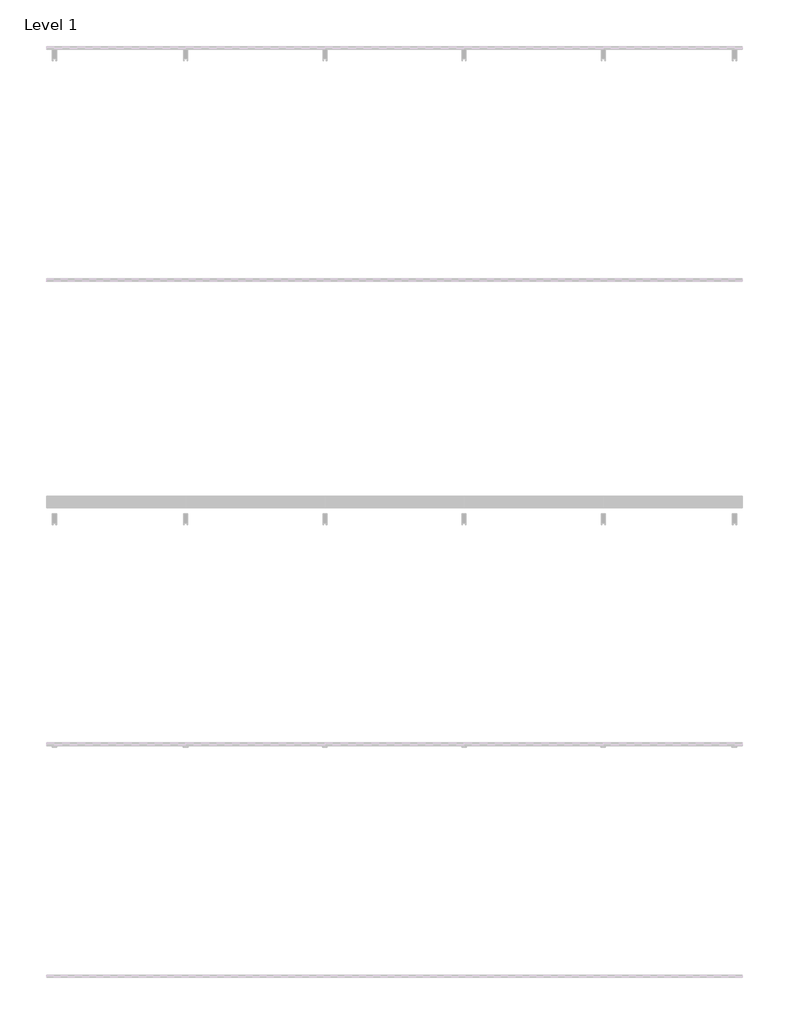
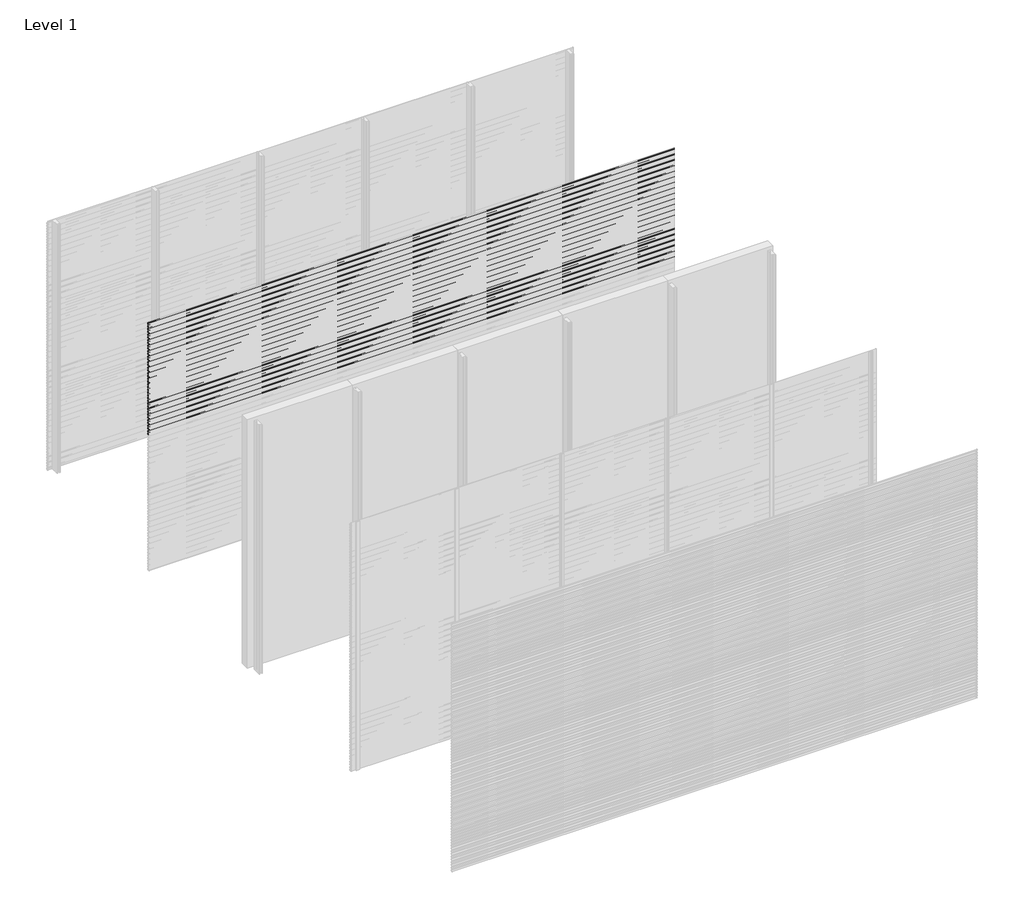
# One storey, part 48 of 77: 72 proxies.
"""IFC4 building model written with IfcOpenShell, lengths in millimetres."""

from ifc_helpers import new_model, si_unit, frame, origin, place, context, project, spatial, polyline, outline, extrude, element, save

model = new_model("IFC4")

# Units and contexts
model_context = context("Model", 3, world=origin())
ifc_project = project(units=[si_unit("LENGTHUNIT", "METRE", prefix="MILLI")], contexts=[model_context])

# Site, building, storey
site = spatial("IfcSite", under=ifc_project)
building = spatial("IfcBuilding", under=site)
storey = spatial("IfcBuildingStorey", under=building, Name="Level 1", Elevation=0.0)

# Proxies
placement = place(None, origin())
element("IfcBuildingElementProxy", 1, Name="Wall Sweeps", at=placement, inside=storey, context=model_context, shape_type="SweptSolid", body=[
    extrude(outline(polyline([(-19978.6, 2972.5359887), (-19998.0, 2983.7366691), (-19998.0, 2997.0), (-19997.0, 2997.0), (-19997.0, 2984.3191057), (-19977.6, 2973.1185105), (-19977.6, 2959.5185105), (-19978.6, 2961.0953129), (-19978.6, 2966.9032062), (-19995.9773817, 2958.8), (-19996.4, 2959.7063078), (-19978.6, 2968.0065841), (-19978.6, 2972.5359887)])), frame((0.0, 0.0, 0.0), z_axis=(1.0, 0.0, 0.0), x_axis=(0.0, 1.0, 0.0)), (0.0, 0.0, 1.0), 6000.0),
])
element("IfcBuildingElementProxy", 2, Name="Wall Sweeps", at=placement, inside=storey, context=model_context, shape_type="SweptSolid", body=[
    extrude(outline(polyline([(-19978.6, 2939.2359887), (-19998.0, 2950.4366691), (-19998.0, 2963.7), (-19997.0, 2963.7), (-19997.0, 2951.0191057), (-19977.6, 2939.8185105), (-19977.6, 2926.2185105), (-19978.6, 2927.7953129), (-19978.6, 2933.6032062), (-19995.9773817, 2925.5), (-19996.4, 2926.4063078), (-19978.6, 2934.7065841), (-19978.6, 2939.2359887)])), frame((0.0, 0.0, 0.0), z_axis=(1.0, 0.0, 0.0), x_axis=(0.0, 1.0, 0.0)), (0.0, 0.0, 1.0), 6000.0),
])
element("IfcBuildingElementProxy", 3, Name="Wall Sweeps", at=placement, inside=storey, context=model_context, shape_type="SweptSolid", body=[
    extrude(outline(polyline([(-19978.6, 2905.9359887), (-19998.0, 2917.1366691), (-19998.0, 2930.4), (-19997.0, 2930.4), (-19997.0, 2917.7191057), (-19977.6, 2906.5185105), (-19977.6, 2892.9185105), (-19978.6, 2894.4953129), (-19978.6, 2900.3032062), (-19995.9773817, 2892.2), (-19996.4, 2893.1063078), (-19978.6, 2901.4065841), (-19978.6, 2905.9359887)])), frame((0.0, 0.0, 0.0), z_axis=(1.0, 0.0, 0.0), x_axis=(0.0, 1.0, 0.0)), (0.0, 0.0, 1.0), 6000.0),
])
element("IfcBuildingElementProxy", 4, Name="Wall Sweeps", at=placement, inside=storey, context=model_context, shape_type="SweptSolid", body=[
    extrude(outline(polyline([(-19978.6, 2872.6359887), (-19998.0, 2883.8366691), (-19998.0, 2897.1), (-19997.0, 2897.1), (-19997.0, 2884.4191057), (-19977.6, 2873.2185105), (-19977.6, 2859.6185105), (-19978.6, 2861.1953129), (-19978.6, 2867.0032062), (-19995.9773817, 2858.9), (-19996.4, 2859.8063078), (-19978.6, 2868.1065841), (-19978.6, 2872.6359887)])), frame((0.0, 0.0, 0.0), z_axis=(1.0, 0.0, 0.0), x_axis=(0.0, 1.0, 0.0)), (0.0, 0.0, 1.0), 6000.0),
])
element("IfcBuildingElementProxy", 5, Name="Wall Sweeps", at=placement, inside=storey, context=model_context, shape_type="SweptSolid", body=[
    extrude(outline(polyline([(-19978.6, 2839.3359887), (-19998.0, 2850.5366691), (-19998.0, 2863.8), (-19997.0, 2863.8), (-19997.0, 2851.1191057), (-19977.6, 2839.9185105), (-19977.6, 2826.3185105), (-19978.6, 2827.8953129), (-19978.6, 2833.7032062), (-19995.9773817, 2825.6), (-19996.4, 2826.5063078), (-19978.6, 2834.8065841), (-19978.6, 2839.3359887)])), frame((0.0, 0.0, 0.0), z_axis=(1.0, 0.0, 0.0), x_axis=(0.0, 1.0, 0.0)), (0.0, 0.0, 1.0), 6000.0),
])
element("IfcBuildingElementProxy", 6, Name="Wall Sweeps", at=placement, inside=storey, context=model_context, shape_type="SweptSolid", body=[
    extrude(outline(polyline([(-19978.6, 2806.0359887), (-19998.0, 2817.2366691), (-19998.0, 2830.5), (-19997.0, 2830.5), (-19997.0, 2817.8191057), (-19977.6, 2806.6185105), (-19977.6, 2793.0185105), (-19978.6, 2794.5953129), (-19978.6, 2800.4032062), (-19995.9773817, 2792.3), (-19996.4, 2793.2063078), (-19978.6, 2801.5065841), (-19978.6, 2806.0359887)])), frame((0.0, 0.0, 0.0), z_axis=(1.0, 0.0, 0.0), x_axis=(0.0, 1.0, 0.0)), (0.0, 0.0, 1.0), 6000.0),
])
element("IfcBuildingElementProxy", 7, Name="Wall Sweeps", at=placement, inside=storey, context=model_context, shape_type="SweptSolid", body=[
    extrude(outline(polyline([(-19978.6, 2772.7359887), (-19998.0, 2783.9366691), (-19998.0, 2797.2), (-19997.0, 2797.2), (-19997.0, 2784.5191057), (-19977.6, 2773.3185105), (-19977.6, 2759.7185105), (-19978.6, 2761.2953129), (-19978.6, 2767.1032062), (-19995.9773817, 2759.0), (-19996.4, 2759.9063078), (-19978.6, 2768.2065841), (-19978.6, 2772.7359887)])), frame((0.0, 0.0, 0.0), z_axis=(1.0, 0.0, 0.0), x_axis=(0.0, 1.0, 0.0)), (0.0, 0.0, 1.0), 6000.0),
])
element("IfcBuildingElementProxy", 8, Name="Wall Sweeps", at=placement, inside=storey, context=model_context, shape_type="SweptSolid", body=[
    extrude(outline(polyline([(-19978.6, 2739.4359887), (-19998.0, 2750.6366691), (-19998.0, 2763.9), (-19997.0, 2763.9), (-19997.0, 2751.2191057), (-19977.6, 2740.0185105), (-19977.6, 2726.4185105), (-19978.6, 2727.9953129), (-19978.6, 2733.8032062), (-19995.9773817, 2725.7), (-19996.4, 2726.6063078), (-19978.6, 2734.9065841), (-19978.6, 2739.4359887)])), frame((0.0, 0.0, 0.0), z_axis=(1.0, 0.0, 0.0), x_axis=(0.0, 1.0, 0.0)), (0.0, 0.0, 1.0), 6000.0),
])
element("IfcBuildingElementProxy", 9, Name="Wall Sweeps", at=placement, inside=storey, context=model_context, shape_type="SweptSolid", body=[
    extrude(outline(polyline([(-19978.6, 2706.1359887), (-19998.0, 2717.3366691), (-19998.0, 2730.6), (-19997.0, 2730.6), (-19997.0, 2717.9191057), (-19977.6, 2706.7185105), (-19977.6, 2693.1185105), (-19978.6, 2694.6953129), (-19978.6, 2700.5032062), (-19995.9773817, 2692.4), (-19996.4, 2693.3063078), (-19978.6, 2701.6065841), (-19978.6, 2706.1359887)])), frame((0.0, 0.0, 0.0), z_axis=(1.0, 0.0, 0.0), x_axis=(0.0, 1.0, 0.0)), (0.0, 0.0, 1.0), 6000.0),
])
element("IfcBuildingElementProxy", 10, Name="Wall Sweeps", at=placement, inside=storey, context=model_context, shape_type="SweptSolid", body=[
    extrude(outline(polyline([(-19978.6, 2672.8359887), (-19998.0, 2684.0366691), (-19998.0, 2697.3), (-19997.0, 2697.3), (-19997.0, 2684.6191057), (-19977.6, 2673.4185105), (-19977.6, 2659.8185105), (-19978.6, 2661.3953129), (-19978.6, 2667.2032062), (-19995.9773817, 2659.1), (-19996.4, 2660.0063078), (-19978.6, 2668.3065841), (-19978.6, 2672.8359887)])), frame((0.0, 0.0, 0.0), z_axis=(1.0, 0.0, 0.0), x_axis=(0.0, 1.0, 0.0)), (0.0, 0.0, 1.0), 6000.0),
])
element("IfcBuildingElementProxy", 11, Name="Wall Sweeps", at=placement, inside=storey, context=model_context, shape_type="SweptSolid", body=[
    extrude(outline(polyline([(-19978.6, 2639.5359887), (-19998.0, 2650.7366691), (-19998.0, 2664.0), (-19997.0, 2664.0), (-19997.0, 2651.3191057), (-19977.6, 2640.1185105), (-19977.6, 2626.5185105), (-19978.6, 2628.0953129), (-19978.6, 2633.9032062), (-19995.9773817, 2625.8), (-19996.4, 2626.7063078), (-19978.6, 2635.0065841), (-19978.6, 2639.5359887)])), frame((0.0, 0.0, 0.0), z_axis=(1.0, 0.0, 0.0), x_axis=(0.0, 1.0, 0.0)), (0.0, 0.0, 1.0), 6000.0),
])
element("IfcBuildingElementProxy", 12, Name="Wall Sweeps", at=placement, inside=storey, context=model_context, shape_type="SweptSolid", body=[
    extrude(outline(polyline([(-19978.6, 2606.2359887), (-19998.0, 2617.4366691), (-19998.0, 2630.7), (-19997.0, 2630.7), (-19997.0, 2618.0191057), (-19977.6, 2606.8185105), (-19977.6, 2593.2185105), (-19978.6, 2594.7953129), (-19978.6, 2600.6032062), (-19995.9773817, 2592.5), (-19996.4, 2593.4063078), (-19978.6, 2601.7065841), (-19978.6, 2606.2359887)])), frame((0.0, 0.0, 0.0), z_axis=(1.0, 0.0, 0.0), x_axis=(0.0, 1.0, 0.0)), (0.0, 0.0, 1.0), 6000.0),
])
element("IfcBuildingElementProxy", 13, Name="Wall Sweeps", at=placement, inside=storey, context=model_context, shape_type="SweptSolid", body=[
    extrude(outline(polyline([(-19978.6, 2572.9359887), (-19998.0, 2584.1366691), (-19998.0, 2597.4), (-19997.0, 2597.4), (-19997.0, 2584.7191057), (-19977.6, 2573.5185105), (-19977.6, 2559.9185105), (-19978.6, 2561.4953129), (-19978.6, 2567.3032062), (-19995.9773817, 2559.2), (-19996.4, 2560.1063078), (-19978.6, 2568.4065841), (-19978.6, 2572.9359887)])), frame((0.0, 0.0, 0.0), z_axis=(1.0, 0.0, 0.0), x_axis=(0.0, 1.0, 0.0)), (0.0, 0.0, 1.0), 6000.0),
])
element("IfcBuildingElementProxy", 14, Name="Wall Sweeps", at=placement, inside=storey, context=model_context, shape_type="SweptSolid", body=[
    extrude(outline(polyline([(-19978.6, 2539.6359887), (-19998.0, 2550.8366691), (-19998.0, 2564.1), (-19997.0, 2564.1), (-19997.0, 2551.4191057), (-19977.6, 2540.2185105), (-19977.6, 2526.6185105), (-19978.6, 2528.1953129), (-19978.6, 2534.0032062), (-19995.9773817, 2525.9), (-19996.4, 2526.8063078), (-19978.6, 2535.1065841), (-19978.6, 2539.6359887)])), frame((0.0, 0.0, 0.0), z_axis=(1.0, 0.0, 0.0), x_axis=(0.0, 1.0, 0.0)), (0.0, 0.0, 1.0), 6000.0),
])
element("IfcBuildingElementProxy", 15, Name="Wall Sweeps", at=placement, inside=storey, context=model_context, shape_type="SweptSolid", body=[
    extrude(outline(polyline([(-19978.6, 2506.3359887), (-19998.0, 2517.5366691), (-19998.0, 2530.8), (-19997.0, 2530.8), (-19997.0, 2518.1191057), (-19977.6, 2506.9185105), (-19977.6, 2493.3185105), (-19978.6, 2494.8953129), (-19978.6, 2500.7032062), (-19995.9773817, 2492.6), (-19996.4, 2493.5063078), (-19978.6, 2501.8065841), (-19978.6, 2506.3359887)])), frame((0.0, 0.0, 0.0), z_axis=(1.0, 0.0, 0.0), x_axis=(0.0, 1.0, 0.0)), (0.0, 0.0, 1.0), 6000.0),
])
element("IfcBuildingElementProxy", 16, Name="Wall Sweeps", at=placement, inside=storey, context=model_context, shape_type="SweptSolid", body=[
    extrude(outline(polyline([(-19978.6, 2473.0359887), (-19998.0, 2484.2366691), (-19998.0, 2497.5), (-19997.0, 2497.5), (-19997.0, 2484.8191057), (-19977.6, 2473.6185105), (-19977.6, 2460.0185105), (-19978.6, 2461.5953129), (-19978.6, 2467.4032062), (-19995.9773817, 2459.3), (-19996.4, 2460.2063078), (-19978.6, 2468.5065841), (-19978.6, 2473.0359887)])), frame((0.0, 0.0, 0.0), z_axis=(1.0, 0.0, 0.0), x_axis=(0.0, 1.0, 0.0)), (0.0, 0.0, 1.0), 6000.0),
])
element("IfcBuildingElementProxy", 17, Name="Wall Sweeps", at=placement, inside=storey, context=model_context, shape_type="SweptSolid", body=[
    extrude(outline(polyline([(-19978.6, 2439.7359887), (-19998.0, 2450.9366691), (-19998.0, 2464.2), (-19997.0, 2464.2), (-19997.0, 2451.5191057), (-19977.6, 2440.3185105), (-19977.6, 2426.7185105), (-19978.6, 2428.2953129), (-19978.6, 2434.1032062), (-19995.9773817, 2426.0), (-19996.4, 2426.9063078), (-19978.6, 2435.2065841), (-19978.6, 2439.7359887)])), frame((0.0, 0.0, 0.0), z_axis=(1.0, 0.0, 0.0), x_axis=(0.0, 1.0, 0.0)), (0.0, 0.0, 1.0), 6000.0),
])
element("IfcBuildingElementProxy", 18, Name="Wall Sweeps", at=placement, inside=storey, context=model_context, shape_type="SweptSolid", body=[
    extrude(outline(polyline([(-19978.6, 2406.4359887), (-19998.0, 2417.6366691), (-19998.0, 2430.9), (-19997.0, 2430.9), (-19997.0, 2418.2191057), (-19977.6, 2407.0185105), (-19977.6, 2393.4185105), (-19978.6, 2394.9953129), (-19978.6, 2400.8032062), (-19995.9773817, 2392.7), (-19996.4, 2393.6063078), (-19978.6, 2401.9065841), (-19978.6, 2406.4359887)])), frame((0.0, 0.0, 0.0), z_axis=(1.0, 0.0, 0.0), x_axis=(0.0, 1.0, 0.0)), (0.0, 0.0, 1.0), 6000.0),
])
element("IfcBuildingElementProxy", 19, Name="Wall Sweeps", at=placement, inside=storey, context=model_context, shape_type="SweptSolid", body=[
    extrude(outline(polyline([(-19978.6, 2373.1359887), (-19998.0, 2384.3366691), (-19998.0, 2397.6), (-19997.0, 2397.6), (-19997.0, 2384.9191057), (-19977.6, 2373.7185105), (-19977.6, 2360.1185105), (-19978.6, 2361.6953129), (-19978.6, 2367.5032062), (-19995.9773817, 2359.4), (-19996.4, 2360.3063078), (-19978.6, 2368.6065841), (-19978.6, 2373.1359887)])), frame((0.0, 0.0, 0.0), z_axis=(1.0, 0.0, 0.0), x_axis=(0.0, 1.0, 0.0)), (0.0, 0.0, 1.0), 6000.0),
])
element("IfcBuildingElementProxy", 20, Name="Wall Sweeps", at=placement, inside=storey, context=model_context, shape_type="SweptSolid", body=[
    extrude(outline(polyline([(-19978.6, 2339.8359887), (-19998.0, 2351.0366691), (-19998.0, 2364.3), (-19997.0, 2364.3), (-19997.0, 2351.6191057), (-19977.6, 2340.4185105), (-19977.6, 2326.8185105), (-19978.6, 2328.3953129), (-19978.6, 2334.2032062), (-19995.9773817, 2326.1), (-19996.4, 2327.0063078), (-19978.6, 2335.3065841), (-19978.6, 2339.8359887)])), frame((0.0, 0.0, 0.0), z_axis=(1.0, 0.0, 0.0), x_axis=(0.0, 1.0, 0.0)), (0.0, 0.0, 1.0), 6000.0),
])
element("IfcBuildingElementProxy", 21, Name="Wall Sweeps", at=placement, inside=storey, context=model_context, shape_type="SweptSolid", body=[
    extrude(outline(polyline([(-19978.6, 2306.5359887), (-19998.0, 2317.7366691), (-19998.0, 2331.0), (-19997.0, 2331.0), (-19997.0, 2318.3191057), (-19977.6, 2307.1185105), (-19977.6, 2293.5185105), (-19978.6, 2295.0953129), (-19978.6, 2300.9032062), (-19995.9773817, 2292.8), (-19996.4, 2293.7063078), (-19978.6, 2302.0065841), (-19978.6, 2306.5359887)])), frame((0.0, 0.0, 0.0), z_axis=(1.0, 0.0, 0.0), x_axis=(0.0, 1.0, 0.0)), (0.0, 0.0, 1.0), 6000.0),
])
element("IfcBuildingElementProxy", 22, Name="Wall Sweeps", at=placement, inside=storey, context=model_context, shape_type="SweptSolid", body=[
    extrude(outline(polyline([(-19978.6, 2273.2359887), (-19998.0, 2284.4366691), (-19998.0, 2297.7), (-19997.0, 2297.7), (-19997.0, 2285.0191057), (-19977.6, 2273.8185105), (-19977.6, 2260.2185105), (-19978.6, 2261.7953129), (-19978.6, 2267.6032062), (-19995.9773817, 2259.5), (-19996.4, 2260.4063078), (-19978.6, 2268.7065841), (-19978.6, 2273.2359887)])), frame((0.0, 0.0, 0.0), z_axis=(1.0, 0.0, 0.0), x_axis=(0.0, 1.0, 0.0)), (0.0, 0.0, 1.0), 6000.0),
])
element("IfcBuildingElementProxy", 23, Name="Wall Sweeps", at=placement, inside=storey, context=model_context, shape_type="SweptSolid", body=[
    extrude(outline(polyline([(-19978.6, 2239.9359887), (-19998.0, 2251.1366691), (-19998.0, 2264.4), (-19997.0, 2264.4), (-19997.0, 2251.7191057), (-19977.6, 2240.5185105), (-19977.6, 2226.9185105), (-19978.6, 2228.4953129), (-19978.6, 2234.3032062), (-19995.9773817, 2226.2), (-19996.4, 2227.1063078), (-19978.6, 2235.4065841), (-19978.6, 2239.9359887)])), frame((0.0, 0.0, 0.0), z_axis=(1.0, 0.0, 0.0), x_axis=(0.0, 1.0, 0.0)), (0.0, 0.0, 1.0), 6000.0),
])
element("IfcBuildingElementProxy", 24, Name="Wall Sweeps", at=placement, inside=storey, context=model_context, shape_type="SweptSolid", body=[
    extrude(outline(polyline([(-19978.6, 2206.6359887), (-19998.0, 2217.8366691), (-19998.0, 2231.1), (-19997.0, 2231.1), (-19997.0, 2218.4191057), (-19977.6, 2207.2185105), (-19977.6, 2193.6185105), (-19978.6, 2195.1953129), (-19978.6, 2201.0032062), (-19995.9773817, 2192.9), (-19996.4, 2193.8063078), (-19978.6, 2202.1065841), (-19978.6, 2206.6359887)])), frame((0.0, 0.0, 0.0), z_axis=(1.0, 0.0, 0.0), x_axis=(0.0, 1.0, 0.0)), (0.0, 0.0, 1.0), 6000.0),
])
element("IfcBuildingElementProxy", 25, Name="Wall Sweeps", at=placement, inside=storey, context=model_context, shape_type="SweptSolid", body=[
    extrude(outline(polyline([(-19978.6, 2173.3359887), (-19998.0, 2184.5366691), (-19998.0, 2197.8), (-19997.0, 2197.8), (-19997.0, 2185.1191057), (-19977.6, 2173.9185105), (-19977.6, 2160.3185105), (-19978.6, 2161.8953129), (-19978.6, 2167.7032062), (-19995.9773817, 2159.6), (-19996.4, 2160.5063078), (-19978.6, 2168.8065841), (-19978.6, 2173.3359887)])), frame((0.0, 0.0, 0.0), z_axis=(1.0, 0.0, 0.0), x_axis=(0.0, 1.0, 0.0)), (0.0, 0.0, 1.0), 6000.0),
])
element("IfcBuildingElementProxy", 26, Name="Wall Sweeps", at=placement, inside=storey, context=model_context, shape_type="SweptSolid", body=[
    extrude(outline(polyline([(-19978.6, 2140.0359887), (-19998.0, 2151.2366691), (-19998.0, 2164.5), (-19997.0, 2164.5), (-19997.0, 2151.8191057), (-19977.6, 2140.6185105), (-19977.6, 2127.0185105), (-19978.6, 2128.5953129), (-19978.6, 2134.4032062), (-19995.9773817, 2126.3), (-19996.4, 2127.2063078), (-19978.6, 2135.5065841), (-19978.6, 2140.0359887)])), frame((0.0, 0.0, 0.0), z_axis=(1.0, 0.0, 0.0), x_axis=(0.0, 1.0, 0.0)), (0.0, 0.0, 1.0), 6000.0),
])
element("IfcBuildingElementProxy", 27, Name="Wall Sweeps", at=placement, inside=storey, context=model_context, shape_type="SweptSolid", body=[
    extrude(outline(polyline([(-19978.6, 2106.7359887), (-19998.0, 2117.9366691), (-19998.0, 2131.2), (-19997.0, 2131.2), (-19997.0, 2118.5191057), (-19977.6, 2107.3185105), (-19977.6, 2093.7185105), (-19978.6, 2095.2953129), (-19978.6, 2101.1032062), (-19995.9773817, 2093.0), (-19996.4, 2093.9063078), (-19978.6, 2102.2065841), (-19978.6, 2106.7359887)])), frame((0.0, 0.0, 0.0), z_axis=(1.0, 0.0, 0.0), x_axis=(0.0, 1.0, 0.0)), (0.0, 0.0, 1.0), 6000.0),
])
element("IfcBuildingElementProxy", 28, Name="Wall Sweeps", at=placement, inside=storey, context=model_context, shape_type="SweptSolid", body=[
    extrude(outline(polyline([(-19978.6, 2073.4359887), (-19998.0, 2084.6366691), (-19998.0, 2097.9), (-19997.0, 2097.9), (-19997.0, 2085.2191057), (-19977.6, 2074.0185105), (-19977.6, 2060.4185105), (-19978.6, 2061.9953129), (-19978.6, 2067.8032062), (-19995.9773817, 2059.7), (-19996.4, 2060.6063078), (-19978.6, 2068.9065841), (-19978.6, 2073.4359887)])), frame((0.0, 0.0, 0.0), z_axis=(1.0, 0.0, 0.0), x_axis=(0.0, 1.0, 0.0)), (0.0, 0.0, 1.0), 6000.0),
])
element("IfcBuildingElementProxy", 29, Name="Wall Sweeps", at=placement, inside=storey, context=model_context, shape_type="SweptSolid", body=[
    extrude(outline(polyline([(-19978.6, 2040.1359887), (-19998.0, 2051.3366691), (-19998.0, 2064.6), (-19997.0, 2064.6), (-19997.0, 2051.9191057), (-19977.6, 2040.7185105), (-19977.6, 2027.1185105), (-19978.6, 2028.6953129), (-19978.6, 2034.5032062), (-19995.9773817, 2026.4), (-19996.4, 2027.3063078), (-19978.6, 2035.6065841), (-19978.6, 2040.1359887)])), frame((0.0, 0.0, 0.0), z_axis=(1.0, 0.0, 0.0), x_axis=(0.0, 1.0, 0.0)), (0.0, 0.0, 1.0), 6000.0),
])
element("IfcBuildingElementProxy", 30, Name="Wall Sweeps", at=placement, inside=storey, context=model_context, shape_type="SweptSolid", body=[
    extrude(outline(polyline([(-19978.6, 2006.8359887), (-19998.0, 2018.0366691), (-19998.0, 2031.3), (-19997.0, 2031.3), (-19997.0, 2018.6191057), (-19977.6, 2007.4185105), (-19977.6, 1993.8185105), (-19978.6, 1995.3953129), (-19978.6, 2001.2032062), (-19995.9773817, 1993.1), (-19996.4, 1994.0063078), (-19978.6, 2002.3065841), (-19978.6, 2006.8359887)])), frame((0.0, 0.0, 0.0), z_axis=(1.0, 0.0, 0.0), x_axis=(0.0, 1.0, 0.0)), (0.0, 0.0, 1.0), 6000.0),
])
element("IfcBuildingElementProxy", 31, Name="Wall Sweeps", at=placement, inside=storey, context=model_context, shape_type="SweptSolid", body=[
    extrude(outline(polyline([(-19978.6, 1973.5359887), (-19998.0, 1984.7366691), (-19998.0, 1998.0), (-19997.0, 1998.0), (-19997.0, 1985.3191057), (-19977.6, 1974.1185105), (-19977.6, 1960.5185105), (-19978.6, 1962.0953129), (-19978.6, 1967.9032062), (-19995.9773817, 1959.8), (-19996.4, 1960.7063078), (-19978.6, 1969.0065841), (-19978.6, 1973.5359887)])), frame((0.0, 0.0, 0.0), z_axis=(1.0, 0.0, 0.0), x_axis=(0.0, 1.0, 0.0)), (0.0, 0.0, 1.0), 6000.0),
])
element("IfcBuildingElementProxy", 32, Name="Wall Sweeps", at=placement, inside=storey, context=model_context, shape_type="SweptSolid", body=[
    extrude(outline(polyline([(-19978.6, 1940.2359887), (-19998.0, 1951.4366691), (-19998.0, 1964.7), (-19997.0, 1964.7), (-19997.0, 1952.0191057), (-19977.6, 1940.8185105), (-19977.6, 1927.2185105), (-19978.6, 1928.7953129), (-19978.6, 1934.6032062), (-19995.9773817, 1926.5), (-19996.4, 1927.4063078), (-19978.6, 1935.7065841), (-19978.6, 1940.2359887)])), frame((0.0, 0.0, 0.0), z_axis=(1.0, 0.0, 0.0), x_axis=(0.0, 1.0, 0.0)), (0.0, 0.0, 1.0), 6000.0),
])
element("IfcBuildingElementProxy", 33, Name="Wall Sweeps", at=placement, inside=storey, context=model_context, shape_type="SweptSolid", body=[
    extrude(outline(polyline([(-19978.6, 1906.9359887), (-19998.0, 1918.1366691), (-19998.0, 1931.4), (-19997.0, 1931.4), (-19997.0, 1918.7191057), (-19977.6, 1907.5185105), (-19977.6, 1893.9185105), (-19978.6, 1895.4953129), (-19978.6, 1901.3032062), (-19995.9773817, 1893.2), (-19996.4, 1894.1063078), (-19978.6, 1902.4065841), (-19978.6, 1906.9359887)])), frame((0.0, 0.0, 0.0), z_axis=(1.0, 0.0, 0.0), x_axis=(0.0, 1.0, 0.0)), (0.0, 0.0, 1.0), 6000.0),
])
element("IfcBuildingElementProxy", 34, Name="Wall Sweeps", at=placement, inside=storey, context=model_context, shape_type="SweptSolid", body=[
    extrude(outline(polyline([(-19978.6, 1873.6359887), (-19998.0, 1884.8366691), (-19998.0, 1898.1), (-19997.0, 1898.1), (-19997.0, 1885.4191057), (-19977.6, 1874.2185105), (-19977.6, 1860.6185105), (-19978.6, 1862.1953129), (-19978.6, 1868.0032062), (-19995.9773817, 1859.9), (-19996.4, 1860.8063078), (-19978.6, 1869.1065841), (-19978.6, 1873.6359887)])), frame((0.0, 0.0, 0.0), z_axis=(1.0, 0.0, 0.0), x_axis=(0.0, 1.0, 0.0)), (0.0, 0.0, 1.0), 6000.0),
])
element("IfcBuildingElementProxy", 35, Name="Wall Sweeps", at=placement, inside=storey, context=model_context, shape_type="SweptSolid", body=[
    extrude(outline(polyline([(-19978.6, 1840.3359887), (-19998.0, 1851.5366691), (-19998.0, 1864.8), (-19997.0, 1864.8), (-19997.0, 1852.1191057), (-19977.6, 1840.9185105), (-19977.6, 1827.3185105), (-19978.6, 1828.8953129), (-19978.6, 1834.7032062), (-19995.9773817, 1826.6), (-19996.4, 1827.5063078), (-19978.6, 1835.8065841), (-19978.6, 1840.3359887)])), frame((0.0, 0.0, 0.0), z_axis=(1.0, 0.0, 0.0), x_axis=(0.0, 1.0, 0.0)), (0.0, 0.0, 1.0), 6000.0),
])
element("IfcBuildingElementProxy", 36, Name="Wall Sweeps", at=placement, inside=storey, context=model_context, shape_type="SweptSolid", body=[
    extrude(outline(polyline([(-19978.6, 1807.0359887), (-19998.0, 1818.2366691), (-19998.0, 1831.5), (-19997.0, 1831.5), (-19997.0, 1818.8191057), (-19977.6, 1807.6185105), (-19977.6, 1794.0185105), (-19978.6, 1795.5953129), (-19978.6, 1801.4032062), (-19995.9773817, 1793.3), (-19996.4, 1794.2063078), (-19978.6, 1802.5065841), (-19978.6, 1807.0359887)])), frame((0.0, 0.0, 0.0), z_axis=(1.0, 0.0, 0.0), x_axis=(0.0, 1.0, 0.0)), (0.0, 0.0, 1.0), 6000.0),
])
element("IfcBuildingElementProxy", 37, Name="Wall Sweeps", at=placement, inside=storey, context=model_context, shape_type="SweptSolid", body=[
    extrude(outline(polyline([(-19978.6, 1773.7359887), (-19998.0, 1784.9366691), (-19998.0, 1798.2), (-19997.0, 1798.2), (-19997.0, 1785.5191057), (-19977.6, 1774.3185105), (-19977.6, 1760.7185105), (-19978.6, 1762.2953129), (-19978.6, 1768.1032062), (-19995.9773817, 1760.0), (-19996.4, 1760.9063078), (-19978.6, 1769.2065841), (-19978.6, 1773.7359887)])), frame((0.0, 0.0, 0.0), z_axis=(1.0, 0.0, 0.0), x_axis=(0.0, 1.0, 0.0)), (0.0, 0.0, 1.0), 6000.0),
])
element("IfcBuildingElementProxy", 38, Name="Wall Sweeps", at=placement, inside=storey, context=model_context, shape_type="SweptSolid", body=[
    extrude(outline(polyline([(-19978.6, 1740.4359887), (-19998.0, 1751.6366691), (-19998.0, 1764.9), (-19997.0, 1764.9), (-19997.0, 1752.2191057), (-19977.6, 1741.0185105), (-19977.6, 1727.4185105), (-19978.6, 1728.9953129), (-19978.6, 1734.8032062), (-19995.9773817, 1726.7), (-19996.4, 1727.6063078), (-19978.6, 1735.9065841), (-19978.6, 1740.4359887)])), frame((0.0, 0.0, 0.0), z_axis=(1.0, 0.0, 0.0), x_axis=(0.0, 1.0, 0.0)), (0.0, 0.0, 1.0), 6000.0),
])
element("IfcBuildingElementProxy", 39, Name="Wall Sweeps", at=placement, inside=storey, context=model_context, shape_type="SweptSolid", body=[
    extrude(outline(polyline([(-19978.6, 1707.1359887), (-19998.0, 1718.3366691), (-19998.0, 1731.6), (-19997.0, 1731.6), (-19997.0, 1718.9191057), (-19977.6, 1707.7185105), (-19977.6, 1694.1185105), (-19978.6, 1695.6953129), (-19978.6, 1701.5032062), (-19995.9773817, 1693.4), (-19996.4, 1694.3063078), (-19978.6, 1702.6065841), (-19978.6, 1707.1359887)])), frame((0.0, 0.0, 0.0), z_axis=(1.0, 0.0, 0.0), x_axis=(0.0, 1.0, 0.0)), (0.0, 0.0, 1.0), 6000.0),
])
element("IfcBuildingElementProxy", 40, Name="Wall Sweeps", at=placement, inside=storey, context=model_context, shape_type="SweptSolid", body=[
    extrude(outline(polyline([(-19978.6, 1673.8359887), (-19998.0, 1685.0366691), (-19998.0, 1698.3), (-19997.0, 1698.3), (-19997.0, 1685.6191057), (-19977.6, 1674.4185105), (-19977.6, 1660.8185105), (-19978.6, 1662.3953129), (-19978.6, 1668.2032062), (-19995.9773817, 1660.1), (-19996.4, 1661.0063078), (-19978.6, 1669.3065841), (-19978.6, 1673.8359887)])), frame((0.0, 0.0, 0.0), z_axis=(1.0, 0.0, 0.0), x_axis=(0.0, 1.0, 0.0)), (0.0, 0.0, 1.0), 6000.0),
])
element("IfcBuildingElementProxy", 41, Name="Wall Sweeps", at=placement, inside=storey, context=model_context, shape_type="SweptSolid", body=[
    extrude(outline(polyline([(-19978.6, 1640.5359887), (-19998.0, 1651.7366691), (-19998.0, 1665.0), (-19997.0, 1665.0), (-19997.0, 1652.3191057), (-19977.6, 1641.1185105), (-19977.6, 1627.5185105), (-19978.6, 1629.0953129), (-19978.6, 1634.9032062), (-19995.9773817, 1626.8), (-19996.4, 1627.7063078), (-19978.6, 1636.0065841), (-19978.6, 1640.5359887)])), frame((0.0, 0.0, 0.0), z_axis=(1.0, 0.0, 0.0), x_axis=(0.0, 1.0, 0.0)), (0.0, 0.0, 1.0), 6000.0),
])
element("IfcBuildingElementProxy", 42, Name="Wall Sweeps", at=placement, inside=storey, context=model_context, shape_type="SweptSolid", body=[
    extrude(outline(polyline([(-23978.6, 1007.8359887), (-23998.0, 1019.0366691), (-23998.0, 1032.3), (-23997.0, 1032.3), (-23997.0, 1019.6191057), (-23977.6, 1008.4185105), (-23977.6, 994.8185105), (-23978.6, 996.3953129), (-23978.6, 1002.2032062), (-23995.9773817, 994.1), (-23996.4, 995.0063078), (-23978.6, 1003.3065841), (-23978.6, 1007.8359887)])), frame((4800.0, 0.0, 0.0), z_axis=(1.0, 0.0, 0.0), x_axis=(0.0, 1.0, 0.0)), (0.0, 0.0, 1.0), 1200.0),
])
element("IfcBuildingElementProxy", 43, Name="Wall Sweeps", at=placement, inside=storey, context=model_context, shape_type="SweptSolid", body=[
    extrude(outline(polyline([(-23978.6, 974.5359887), (-23998.0, 985.7366691), (-23998.0, 999.0), (-23997.0, 999.0), (-23997.0, 986.3191057), (-23977.6, 975.1185105), (-23977.6, 961.5185105), (-23978.6, 963.0953129), (-23978.6, 968.9032062), (-23995.9773817, 960.8), (-23996.4, 961.7063078), (-23978.6, 970.0065841), (-23978.6, 974.5359887)])), frame((4800.0, 0.0, 0.0), z_axis=(1.0, 0.0, 0.0), x_axis=(0.0, 1.0, 0.0)), (0.0, 0.0, 1.0), 1200.0),
])
element("IfcBuildingElementProxy", 44, Name="Wall Sweeps", at=placement, inside=storey, context=model_context, shape_type="SweptSolid", body=[
    extrude(outline(polyline([(-23978.6, 941.2359887), (-23998.0, 952.4366691), (-23998.0, 965.7), (-23997.0, 965.7), (-23997.0, 953.0191057), (-23977.6, 941.8185105), (-23977.6, 928.2185105), (-23978.6, 929.7953129), (-23978.6, 935.6032062), (-23995.9773817, 927.5), (-23996.4, 928.4063078), (-23978.6, 936.7065841), (-23978.6, 941.2359887)])), frame((4800.0, 0.0, 0.0), z_axis=(1.0, 0.0, 0.0), x_axis=(0.0, 1.0, 0.0)), (0.0, 0.0, 1.0), 1200.0),
])
element("IfcBuildingElementProxy", 45, Name="Wall Sweeps", at=placement, inside=storey, context=model_context, shape_type="SweptSolid", body=[
    extrude(outline(polyline([(-23978.6, 907.9359887), (-23998.0, 919.1366691), (-23998.0, 932.4), (-23997.0, 932.4), (-23997.0, 919.7191057), (-23977.6, 908.5185105), (-23977.6, 894.9185105), (-23978.6, 896.4953129), (-23978.6, 902.3032062), (-23995.9773817, 894.2), (-23996.4, 895.1063078), (-23978.6, 903.4065841), (-23978.6, 907.9359887)])), frame((4800.0, 0.0, 0.0), z_axis=(1.0, 0.0, 0.0), x_axis=(0.0, 1.0, 0.0)), (0.0, 0.0, 1.0), 1200.0),
])
element("IfcBuildingElementProxy", 46, Name="Wall Sweeps", at=placement, inside=storey, context=model_context, shape_type="SweptSolid", body=[
    extrude(outline(polyline([(-23978.6, 874.6359887), (-23998.0, 885.8366691), (-23998.0, 899.1), (-23997.0, 899.1), (-23997.0, 886.4191057), (-23977.6, 875.2185105), (-23977.6, 861.6185105), (-23978.6, 863.1953129), (-23978.6, 869.0032062), (-23995.9773817, 860.9), (-23996.4, 861.8063078), (-23978.6, 870.1065841), (-23978.6, 874.6359887)])), frame((4800.0, 0.0, 0.0), z_axis=(1.0, 0.0, 0.0), x_axis=(0.0, 1.0, 0.0)), (0.0, 0.0, 1.0), 1200.0),
])
element("IfcBuildingElementProxy", 47, Name="Wall Sweeps", at=placement, inside=storey, context=model_context, shape_type="SweptSolid", body=[
    extrude(outline(polyline([(-23978.6, 841.3359887), (-23998.0, 852.5366691), (-23998.0, 865.8), (-23997.0, 865.8), (-23997.0, 853.1191057), (-23977.6, 841.9185105), (-23977.6, 828.3185105), (-23978.6, 829.8953129), (-23978.6, 835.7032062), (-23995.9773817, 827.6), (-23996.4, 828.5063078), (-23978.6, 836.8065841), (-23978.6, 841.3359887)])), frame((4800.0, 0.0, 0.0), z_axis=(1.0, 0.0, 0.0), x_axis=(0.0, 1.0, 0.0)), (0.0, 0.0, 1.0), 1200.0),
])
element("IfcBuildingElementProxy", 48, Name="Wall Sweeps", at=placement, inside=storey, context=model_context, shape_type="SweptSolid", body=[
    extrude(outline(polyline([(-23978.6, 808.0359887), (-23998.0, 819.2366691), (-23998.0, 832.5), (-23997.0, 832.5), (-23997.0, 819.8191057), (-23977.6, 808.6185105), (-23977.6, 795.0185105), (-23978.6, 796.5953129), (-23978.6, 802.4032062), (-23995.9773817, 794.3), (-23996.4, 795.2063078), (-23978.6, 803.5065841), (-23978.6, 808.0359887)])), frame((4800.0, 0.0, 0.0), z_axis=(1.0, 0.0, 0.0), x_axis=(0.0, 1.0, 0.0)), (0.0, 0.0, 1.0), 1200.0),
])
element("IfcBuildingElementProxy", 49, Name="Wall Sweeps", at=placement, inside=storey, context=model_context, shape_type="SweptSolid", body=[
    extrude(outline(polyline([(-23978.6, 774.7359887), (-23998.0, 785.9366691), (-23998.0, 799.2), (-23997.0, 799.2), (-23997.0, 786.5191057), (-23977.6, 775.3185105), (-23977.6, 761.7185105), (-23978.6, 763.2953129), (-23978.6, 769.1032062), (-23995.9773817, 761.0), (-23996.4, 761.9063078), (-23978.6, 770.2065841), (-23978.6, 774.7359887)])), frame((4800.0, 0.0, 0.0), z_axis=(1.0, 0.0, 0.0), x_axis=(0.0, 1.0, 0.0)), (0.0, 0.0, 1.0), 1200.0),
])
element("IfcBuildingElementProxy", 50, Name="Wall Sweeps", at=placement, inside=storey, context=model_context, shape_type="SweptSolid", body=[
    extrude(outline(polyline([(-23978.6, 741.4359887), (-23998.0, 752.6366691), (-23998.0, 765.9), (-23997.0, 765.9), (-23997.0, 753.2191057), (-23977.6, 742.0185105), (-23977.6, 728.4185105), (-23978.6, 729.9953129), (-23978.6, 735.8032062), (-23995.9773817, 727.7), (-23996.4, 728.6063078), (-23978.6, 736.9065841), (-23978.6, 741.4359887)])), frame((4800.0, 0.0, 0.0), z_axis=(1.0, 0.0, 0.0), x_axis=(0.0, 1.0, 0.0)), (0.0, 0.0, 1.0), 1200.0),
])
element("IfcBuildingElementProxy", 51, Name="Wall Sweeps", at=placement, inside=storey, context=model_context, shape_type="SweptSolid", body=[
    extrude(outline(polyline([(-23978.6, 708.1359887), (-23998.0, 719.3366691), (-23998.0, 732.6), (-23997.0, 732.6), (-23997.0, 719.9191057), (-23977.6, 708.7185105), (-23977.6, 695.1185105), (-23978.6, 696.6953129), (-23978.6, 702.5032062), (-23995.9773817, 694.4), (-23996.4, 695.3063078), (-23978.6, 703.6065841), (-23978.6, 708.1359887)])), frame((4800.0, 0.0, 0.0), z_axis=(1.0, 0.0, 0.0), x_axis=(0.0, 1.0, 0.0)), (0.0, 0.0, 1.0), 1200.0),
])
element("IfcBuildingElementProxy", 52, Name="Wall Sweeps", at=placement, inside=storey, context=model_context, shape_type="SweptSolid", body=[
    extrude(outline(polyline([(-23978.6, 674.8359887), (-23998.0, 686.0366691), (-23998.0, 699.3), (-23997.0, 699.3), (-23997.0, 686.6191057), (-23977.6, 675.4185105), (-23977.6, 661.8185105), (-23978.6, 663.3953129), (-23978.6, 669.2032062), (-23995.9773817, 661.1), (-23996.4, 662.0063078), (-23978.6, 670.3065841), (-23978.6, 674.8359887)])), frame((4800.0, 0.0, 0.0), z_axis=(1.0, 0.0, 0.0), x_axis=(0.0, 1.0, 0.0)), (0.0, 0.0, 1.0), 1200.0),
])
element("IfcBuildingElementProxy", 53, Name="Wall Sweeps", at=placement, inside=storey, context=model_context, shape_type="SweptSolid", body=[
    extrude(outline(polyline([(-23978.6, 641.5359887), (-23998.0, 652.7366691), (-23998.0, 666.0), (-23997.0, 666.0), (-23997.0, 653.3191057), (-23977.6, 642.1185105), (-23977.6, 628.5185105), (-23978.6, 630.0953129), (-23978.6, 635.9032062), (-23995.9773817, 627.8), (-23996.4, 628.7063078), (-23978.6, 637.0065841), (-23978.6, 641.5359887)])), frame((4800.0, 0.0, 0.0), z_axis=(1.0, 0.0, 0.0), x_axis=(0.0, 1.0, 0.0)), (0.0, 0.0, 1.0), 1200.0),
])
element("IfcBuildingElementProxy", 54, Name="Wall Sweeps", at=placement, inside=storey, context=model_context, shape_type="SweptSolid", body=[
    extrude(outline(polyline([(-23978.6, 608.2359887), (-23998.0, 619.4366691), (-23998.0, 632.7), (-23997.0, 632.7), (-23997.0, 620.0191057), (-23977.6, 608.8185105), (-23977.6, 595.2185105), (-23978.6, 596.7953129), (-23978.6, 602.6032062), (-23995.9773817, 594.5), (-23996.4, 595.4063078), (-23978.6, 603.7065841), (-23978.6, 608.2359887)])), frame((4800.0, 0.0, 0.0), z_axis=(1.0, 0.0, 0.0), x_axis=(0.0, 1.0, 0.0)), (0.0, 0.0, 1.0), 1200.0),
])
element("IfcBuildingElementProxy", 55, Name="Wall Sweeps", at=placement, inside=storey, context=model_context, shape_type="SweptSolid", body=[
    extrude(outline(polyline([(-23978.6, 574.9359887), (-23998.0, 586.1366691), (-23998.0, 599.4), (-23997.0, 599.4), (-23997.0, 586.7191057), (-23977.6, 575.5185105), (-23977.6, 561.9185105), (-23978.6, 563.4953129), (-23978.6, 569.3032062), (-23995.9773817, 561.2), (-23996.4, 562.1063078), (-23978.6, 570.4065841), (-23978.6, 574.9359887)])), frame((4800.0, 0.0, 0.0), z_axis=(1.0, 0.0, 0.0), x_axis=(0.0, 1.0, 0.0)), (0.0, 0.0, 1.0), 1200.0),
])
element("IfcBuildingElementProxy", 56, Name="Wall Sweeps", at=placement, inside=storey, context=model_context, shape_type="SweptSolid", body=[
    extrude(outline(polyline([(-23978.6, 541.6359887), (-23998.0, 552.8366691), (-23998.0, 566.1), (-23997.0, 566.1), (-23997.0, 553.4191057), (-23977.6, 542.2185105), (-23977.6, 528.6185105), (-23978.6, 530.1953129), (-23978.6, 536.0032062), (-23995.9773817, 527.9), (-23996.4, 528.8063078), (-23978.6, 537.1065841), (-23978.6, 541.6359887)])), frame((4800.0, 0.0, 0.0), z_axis=(1.0, 0.0, 0.0), x_axis=(0.0, 1.0, 0.0)), (0.0, 0.0, 1.0), 1200.0),
])
element("IfcBuildingElementProxy", 57, Name="Wall Sweeps", at=placement, inside=storey, context=model_context, shape_type="SweptSolid", body=[
    extrude(outline(polyline([(-23978.6, 508.3359887), (-23998.0, 519.5366691), (-23998.0, 532.8), (-23997.0, 532.8), (-23997.0, 520.1191057), (-23977.6, 508.9185105), (-23977.6, 495.3185105), (-23978.6, 496.8953129), (-23978.6, 502.7032062), (-23995.9773817, 494.6), (-23996.4, 495.5063078), (-23978.6, 503.8065841), (-23978.6, 508.3359887)])), frame((4800.0, 0.0, 0.0), z_axis=(1.0, 0.0, 0.0), x_axis=(0.0, 1.0, 0.0)), (0.0, 0.0, 1.0), 1200.0),
])
element("IfcBuildingElementProxy", 58, Name="Wall Sweeps", at=placement, inside=storey, context=model_context, shape_type="SweptSolid", body=[
    extrude(outline(polyline([(-23978.6, 475.0359887), (-23998.0, 486.2366691), (-23998.0, 499.5), (-23997.0, 499.5), (-23997.0, 486.8191057), (-23977.6, 475.6185105), (-23977.6, 462.0185105), (-23978.6, 463.5953129), (-23978.6, 469.4032062), (-23995.9773817, 461.3), (-23996.4, 462.2063078), (-23978.6, 470.5065841), (-23978.6, 475.0359887)])), frame((4800.0, 0.0, 0.0), z_axis=(1.0, 0.0, 0.0), x_axis=(0.0, 1.0, 0.0)), (0.0, 0.0, 1.0), 1200.0),
])
element("IfcBuildingElementProxy", 59, Name="Wall Sweeps", at=placement, inside=storey, context=model_context, shape_type="SweptSolid", body=[
    extrude(outline(polyline([(-23978.6, 441.7359887), (-23998.0, 452.9366691), (-23998.0, 466.2), (-23997.0, 466.2), (-23997.0, 453.5191057), (-23977.6, 442.3185105), (-23977.6, 428.7185105), (-23978.6, 430.2953129), (-23978.6, 436.1032062), (-23995.9773817, 428.0), (-23996.4, 428.9063078), (-23978.6, 437.2065841), (-23978.6, 441.7359887)])), frame((4800.0, 0.0, 0.0), z_axis=(1.0, 0.0, 0.0), x_axis=(0.0, 1.0, 0.0)), (0.0, 0.0, 1.0), 1200.0),
])
element("IfcBuildingElementProxy", 60, Name="Wall Sweeps", at=placement, inside=storey, context=model_context, shape_type="SweptSolid", body=[
    extrude(outline(polyline([(-23978.6, 408.4359887), (-23998.0, 419.6366691), (-23998.0, 432.9), (-23997.0, 432.9), (-23997.0, 420.2191057), (-23977.6, 409.0185105), (-23977.6, 395.4185105), (-23978.6, 396.9953129), (-23978.6, 402.8032062), (-23995.9773817, 394.7), (-23996.4, 395.6063078), (-23978.6, 403.9065841), (-23978.6, 408.4359887)])), frame((4800.0, 0.0, 0.0), z_axis=(1.0, 0.0, 0.0), x_axis=(0.0, 1.0, 0.0)), (0.0, 0.0, 1.0), 1200.0),
])
element("IfcBuildingElementProxy", 61, Name="Wall Sweeps", at=placement, inside=storey, context=model_context, shape_type="SweptSolid", body=[
    extrude(outline(polyline([(-23978.6, 375.1359887), (-23998.0, 386.3366691), (-23998.0, 399.6), (-23997.0, 399.6), (-23997.0, 386.9191057), (-23977.6, 375.7185105), (-23977.6, 362.1185105), (-23978.6, 363.6953129), (-23978.6, 369.5032062), (-23995.9773817, 361.4), (-23996.4, 362.3063078), (-23978.6, 370.6065841), (-23978.6, 375.1359887)])), frame((4800.0, 0.0, 0.0), z_axis=(1.0, 0.0, 0.0), x_axis=(0.0, 1.0, 0.0)), (0.0, 0.0, 1.0), 1200.0),
])
element("IfcBuildingElementProxy", 62, Name="Wall Sweeps", at=placement, inside=storey, context=model_context, shape_type="SweptSolid", body=[
    extrude(outline(polyline([(-23978.6, 341.8359887), (-23998.0, 353.0366691), (-23998.0, 366.3), (-23997.0, 366.3), (-23997.0, 353.6191057), (-23977.6, 342.4185105), (-23977.6, 328.8185105), (-23978.6, 330.3953129), (-23978.6, 336.2032062), (-23995.9773817, 328.1), (-23996.4, 329.0063078), (-23978.6, 337.3065841), (-23978.6, 341.8359887)])), frame((4800.0, 0.0, 0.0), z_axis=(1.0, 0.0, 0.0), x_axis=(0.0, 1.0, 0.0)), (0.0, 0.0, 1.0), 1200.0),
])
element("IfcBuildingElementProxy", 63, Name="Wall Sweeps", at=placement, inside=storey, context=model_context, shape_type="SweptSolid", body=[
    extrude(outline(polyline([(-23978.6, 308.5359887), (-23998.0, 319.7366691), (-23998.0, 333.0), (-23997.0, 333.0), (-23997.0, 320.3191057), (-23977.6, 309.1185105), (-23977.6, 295.5185105), (-23978.6, 297.0953129), (-23978.6, 302.9032062), (-23995.9773817, 294.8), (-23996.4, 295.7063078), (-23978.6, 304.0065841), (-23978.6, 308.5359887)])), frame((4800.0, 0.0, 0.0), z_axis=(1.0, 0.0, 0.0), x_axis=(0.0, 1.0, 0.0)), (0.0, 0.0, 1.0), 1200.0),
])
element("IfcBuildingElementProxy", 64, Name="Wall Sweeps", at=placement, inside=storey, context=model_context, shape_type="SweptSolid", body=[
    extrude(outline(polyline([(-23978.6, 275.2359887), (-23998.0, 286.4366691), (-23998.0, 299.7), (-23997.0, 299.7), (-23997.0, 287.0191057), (-23977.6, 275.8185105), (-23977.6, 262.2185105), (-23978.6, 263.7953129), (-23978.6, 269.6032062), (-23995.9773817, 261.5), (-23996.4, 262.4063078), (-23978.6, 270.7065841), (-23978.6, 275.2359887)])), frame((4800.0, 0.0, 0.0), z_axis=(1.0, 0.0, 0.0), x_axis=(0.0, 1.0, 0.0)), (0.0, 0.0, 1.0), 1200.0),
])
element("IfcBuildingElementProxy", 65, Name="Wall Sweeps", at=placement, inside=storey, context=model_context, shape_type="SweptSolid", body=[
    extrude(outline(polyline([(-23978.6, 241.9359887), (-23998.0, 253.1366691), (-23998.0, 266.4), (-23997.0, 266.4), (-23997.0, 253.7191057), (-23977.6, 242.5185105), (-23977.6, 228.9185105), (-23978.6, 230.4953129), (-23978.6, 236.3032062), (-23995.9773817, 228.2), (-23996.4, 229.1063078), (-23978.6, 237.4065841), (-23978.6, 241.9359887)])), frame((4800.0, 0.0, 0.0), z_axis=(1.0, 0.0, 0.0), x_axis=(0.0, 1.0, 0.0)), (0.0, 0.0, 1.0), 1200.0),
])
element("IfcBuildingElementProxy", 66, Name="Wall Sweeps", at=placement, inside=storey, context=model_context, shape_type="SweptSolid", body=[
    extrude(outline(polyline([(-23978.6, 208.6359887), (-23998.0, 219.8366691), (-23998.0, 233.1), (-23997.0, 233.1), (-23997.0, 220.4191057), (-23977.6, 209.2185105), (-23977.6, 195.6185105), (-23978.6, 197.1953129), (-23978.6, 203.0032062), (-23995.9773817, 194.9), (-23996.4, 195.8063078), (-23978.6, 204.1065841), (-23978.6, 208.6359887)])), frame((4800.0, 0.0, 0.0), z_axis=(1.0, 0.0, 0.0), x_axis=(0.0, 1.0, 0.0)), (0.0, 0.0, 1.0), 1200.0),
])
element("IfcBuildingElementProxy", 67, Name="Wall Sweeps", at=placement, inside=storey, context=model_context, shape_type="SweptSolid", body=[
    extrude(outline(polyline([(-23978.6, 175.3359887), (-23998.0, 186.5366691), (-23998.0, 199.8), (-23997.0, 199.8), (-23997.0, 187.1191057), (-23977.6, 175.9185105), (-23977.6, 162.3185105), (-23978.6, 163.8953129), (-23978.6, 169.7032062), (-23995.9773817, 161.6), (-23996.4, 162.5063078), (-23978.6, 170.8065841), (-23978.6, 175.3359887)])), frame((4800.0, 0.0, 0.0), z_axis=(1.0, 0.0, 0.0), x_axis=(0.0, 1.0, 0.0)), (0.0, 0.0, 1.0), 1200.0),
])
element("IfcBuildingElementProxy", 68, Name="Wall Sweeps", at=placement, inside=storey, context=model_context, shape_type="SweptSolid", body=[
    extrude(outline(polyline([(-23978.6, 142.0359887), (-23998.0, 153.2366691), (-23998.0, 166.5), (-23997.0, 166.5), (-23997.0, 153.8191057), (-23977.6, 142.6185105), (-23977.6, 129.0185105), (-23978.6, 130.5953129), (-23978.6, 136.4032062), (-23995.9773817, 128.3), (-23996.4, 129.2063078), (-23978.6, 137.5065841), (-23978.6, 142.0359887)])), frame((4800.0, 0.0, 0.0), z_axis=(1.0, 0.0, 0.0), x_axis=(0.0, 1.0, 0.0)), (0.0, 0.0, 1.0), 1200.0),
])
element("IfcBuildingElementProxy", 69, Name="Wall Sweeps", at=placement, inside=storey, context=model_context, shape_type="SweptSolid", body=[
    extrude(outline(polyline([(-23978.6, 108.7359887), (-23998.0, 119.9366691), (-23998.0, 133.2), (-23997.0, 133.2), (-23997.0, 120.5191057), (-23977.6, 109.3185105), (-23977.6, 95.7185105), (-23978.6, 97.2953129), (-23978.6, 103.1032062), (-23995.9773817, 95.0), (-23996.4, 95.9063078), (-23978.6, 104.2065841), (-23978.6, 108.7359887)])), frame((4800.0, 0.0, 0.0), z_axis=(1.0, 0.0, 0.0), x_axis=(0.0, 1.0, 0.0)), (0.0, 0.0, 1.0), 1200.0),
])
element("IfcBuildingElementProxy", 70, Name="Wall Sweeps", at=placement, inside=storey, context=model_context, shape_type="SweptSolid", body=[
    extrude(outline(polyline([(-23978.6, 75.4359887), (-23998.0, 86.6366691), (-23998.0, 99.9), (-23997.0, 99.9), (-23997.0, 87.2191057), (-23977.6, 76.0185105), (-23977.6, 62.4185105), (-23978.6, 63.9953129), (-23978.6, 69.8032062), (-23995.9773817, 61.7), (-23996.4, 62.6063078), (-23978.6, 70.9065841), (-23978.6, 75.4359887)])), frame((4800.0, 0.0, 0.0), z_axis=(1.0, 0.0, 0.0), x_axis=(0.0, 1.0, 0.0)), (0.0, 0.0, 1.0), 1200.0),
])
element("IfcBuildingElementProxy", 71, Name="Wall Sweeps", at=placement, inside=storey, context=model_context, shape_type="SweptSolid", body=[
    extrude(outline(polyline([(-23978.6, 42.1359887), (-23998.0, 53.3366691), (-23998.0, 66.6), (-23997.0, 66.6), (-23997.0, 53.9191057), (-23977.6, 42.7185105), (-23977.6, 29.1185105), (-23978.6, 30.6953129), (-23978.6, 36.5032062), (-23995.9773817, 28.4), (-23996.4, 29.3063078), (-23978.6, 37.6065841), (-23978.6, 42.1359887)])), frame((4800.0, 0.0, 0.0), z_axis=(1.0, 0.0, 0.0), x_axis=(0.0, 1.0, 0.0)), (0.0, 0.0, 1.0), 1200.0),
])
element("IfcBuildingElementProxy", 72, Name="Wall Sweeps", at=placement, inside=storey, context=model_context, shape_type="SweptSolid", body=[
    extrude(outline(polyline([(-23978.6, 8.8359887), (-23998.0, 20.0366691), (-23998.0, 33.3), (-23997.0, 33.3), (-23997.0, 20.6191057), (-23977.6, 9.4185105), (-23977.6, -4.1814895), (-23978.6, -2.6046871), (-23978.6, 3.2032062), (-23995.9773817, -4.9), (-23996.4, -3.9936922), (-23978.6, 4.3065841), (-23978.6, 8.8359887)])), frame((4800.0, 0.0, 0.0), z_axis=(1.0, 0.0, 0.0), x_axis=(0.0, 1.0, 0.0)), (0.0, 0.0, 1.0), 1200.0),
])

save(model, "model.ifc")
